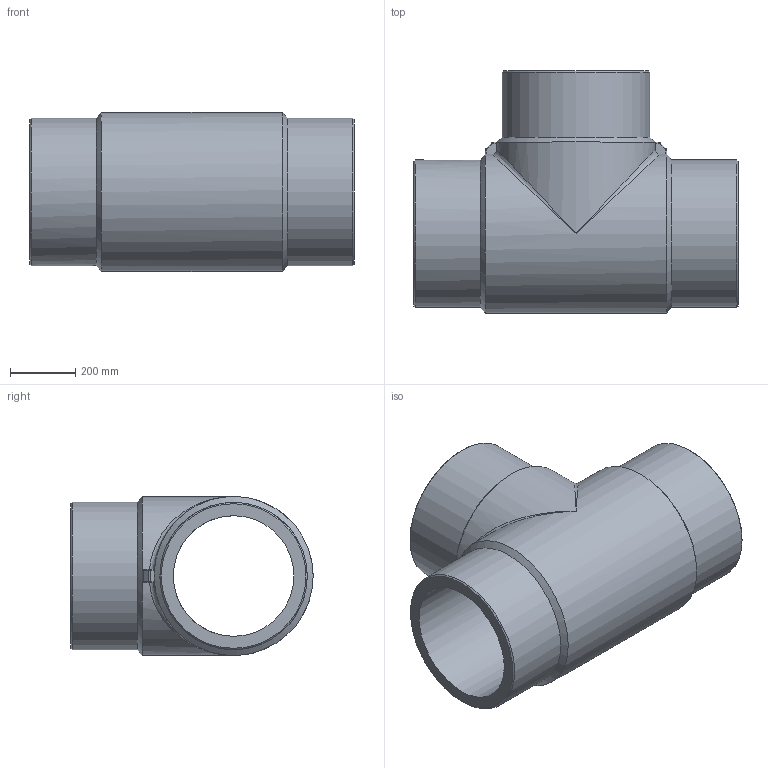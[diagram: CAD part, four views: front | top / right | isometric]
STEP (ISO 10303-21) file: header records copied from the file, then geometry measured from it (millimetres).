
FILE_DESCRIPTION(/* description */ ('Unknown'),/* implementation_level */ '2;1');
FILE_NAME(/* name */ 'TP450C',/* time_stamp */ '2022-06-06T15:55:25+02:00',/* author */ ('Unknown'),/* organization */ ('Unknown'),/* preprocessor_version */ 'ST-DEVELOPER v18.102',/* originating_system */ 'Solid Edge',/* authorisation */ 'Unknown');
FILE_SCHEMA (('AUTOMOTIVE_DESIGN {1 0 10303 214 3 1 1}'));
Length unit declared in the file: millimetre
Products named in the file (1): TP450C
Bounding box: 990 x 740 x 486 mm (x, y, z)
Volume: 79266849.9 mm3; surface area: 3360603.1 mm2
Topology: 1 solids, 1 shells, 55 faces, 136 edges, 78 vertices
Faces by surface type: cylinder 24, plane 13, torus 8, cone 6, bspline 4
Full cylindrical faces by diameter (mm): 368.2 x2, 450 x3
Entity records: 1668 total; most frequent: CARTESIAN_POINT 438, DIRECTION 268, ORIENTED_EDGE 228, EDGE_CURVE 114, AXIS2_PLACEMENT_3D 114, VERTEX_POINT 72, EDGE_LOOP 70, FACE_BOUND 70
